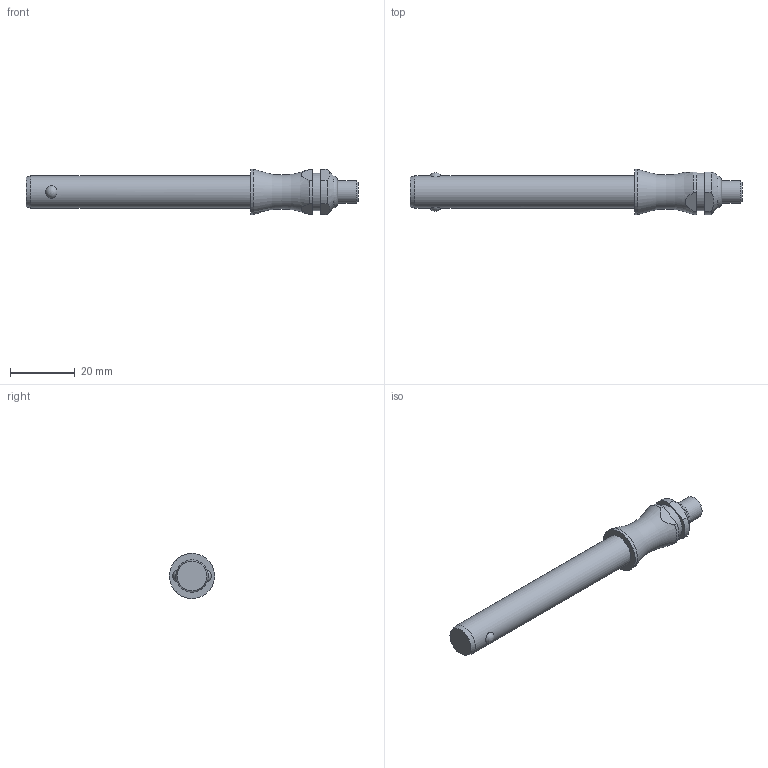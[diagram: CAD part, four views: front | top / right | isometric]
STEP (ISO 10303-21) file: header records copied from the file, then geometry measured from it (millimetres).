
FILE_DESCRIPTION( ( 'STEP AP203' ), '1' );
FILE_NAME( 'C:/Temp/Ganter_Step_05_03_2020/data/3_1/gn113_3/Stainless Steel-Ball lock pin GN 113.3-10-60 (deactivated).stp', '2020-03-12T08:18:35', ( 'License CC BY-ND 4.0' ), ( 'CADENAS' ), ' ', 'PARTsolutions', ' ' );
FILE_SCHEMA( ( 'CONFIG_CONTROL_DESIGN' ) );
Length unit declared in the file: millimetre
Products named in the file (1): _Stainless Steel-Ball lock pin GN 113.3-10-60 (deactivated)
Bounding box: 102.9 x 14 x 14 mm (x, y, z)
Volume: 8691.8 mm3; surface area: 3645.5 mm2
Topology: 1 solids, 1 shells, 28 faces, 60 edges, 39 vertices
Faces by surface type: plane 11, cylinder 10, cone 3, torus 2, sphere 2
Full cylindrical faces by diameter (mm): 7 x1, 10 x1, 11.6 x1, 14 x1
Entity records: 940 total; most frequent: CARTESIAN_POINT 327, DIRECTION 122, ORIENTED_EDGE 98, AXIS2_PLACEMENT_3D 52, EDGE_CURVE 49, EDGE_LOOP 42, VERTEX_POINT 37, FACE_OUTER_BOUND 34
